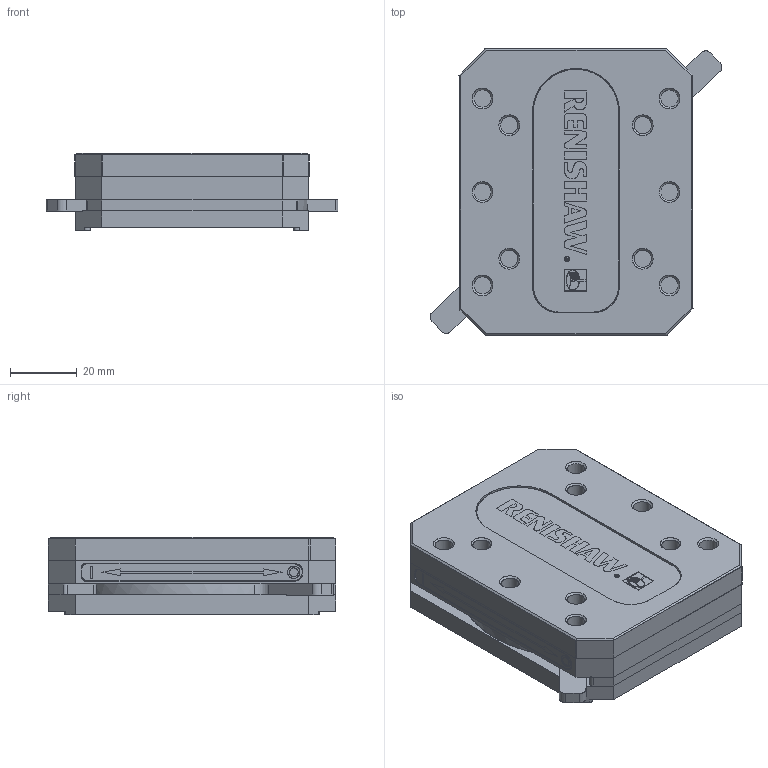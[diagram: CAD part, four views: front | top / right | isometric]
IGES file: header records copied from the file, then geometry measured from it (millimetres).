
Global section: file name: A-9971-0020-01-A_LOW PROFILE MAGBASE _altrep_A-9971-0020-01-A-alt1_.igs; native system: NX V2312; preprocessor: SIEMENS PLM Software NX2312.8103; date: 20250902.112444; units: millimetre
Bounding box: 87.4 x 86.1 x 23.25 mm (x, y, z)
Surface area: 22991.7 mm2 (no closed solid volume)
Topology: 0 solids, 0 shells, 249 faces, 1926 edges, 1877 vertices
Faces by surface type: bspline 249
